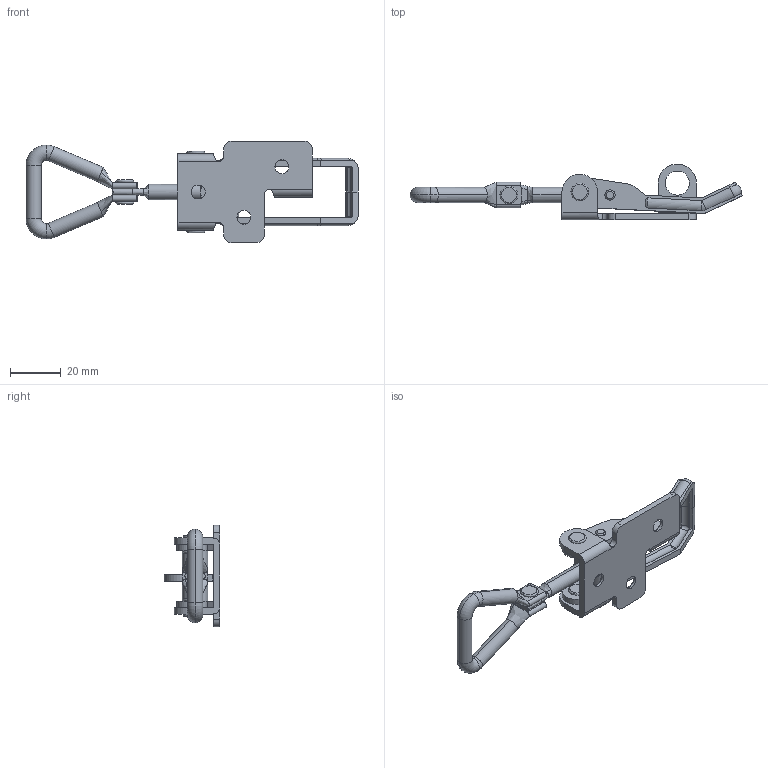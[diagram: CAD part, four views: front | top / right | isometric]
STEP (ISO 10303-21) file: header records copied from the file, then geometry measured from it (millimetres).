
FILE_DESCRIPTION (( 'STEP AP203' ), '1' );
FILE_NAME ('Wiberger-el2030-100-fzb.step', '2013-11-01T11:54:16', ( 'Magnus' ), ( 'Wiberger' ), 'SwSTEP 2.0', 'SolidWorks 2011', '' );
FILE_SCHEMA (( 'CONFIG_CONTROL_DESIGN' ));
Length unit declared in the file: millimetre
Products named in the file (9): nit4x5; Wiberger-el2030-100-fzb_rulle; Wiberger-el2030-100-fzb; Wiberger-din934_m6; nit4x7-5; Wiberger-el2030-100-fzb_bygel; Wiberger-el2030-100-fzb_ganga; Wiberger-el2030-100-fzb_grepp; Wiberger-el2030-100-fzb_platta
Assembly tree (9 placements, depth 2):
  Wiberger-el2030-100-fzb
    nit4x7-5
    nit4x5  x2
    Wiberger-din934_m6
    Wiberger-el2030-100-fzb_rulle
    Wiberger-el2030-100-fzb_grepp
    Wiberger-el2030-100-fzb_ganga
    Wiberger-el2030-100-fzb_platta
    Wiberger-el2030-100-fzb_bygel
Bounding box: 130.96 x 22 x 40 mm (x, y, z)
Volume: 14460.2 mm3; surface area: 13698.5 mm2
Topology: 10 solids, 10 shells, 258 faces, 616 edges, 382 vertices
Faces by surface type: cylinder 110, plane 75, torus 32, cone 30, bspline 11
Entity records: 9584 total; most frequent: CARTESIAN_POINT 2741, DIRECTION 1282, ORIENTED_EDGE 1192, EDGE_CURVE 596, AXIS2_PLACEMENT_3D 513, VERTEX_POINT 370, EDGE_LOOP 282, CIRCLE 264
